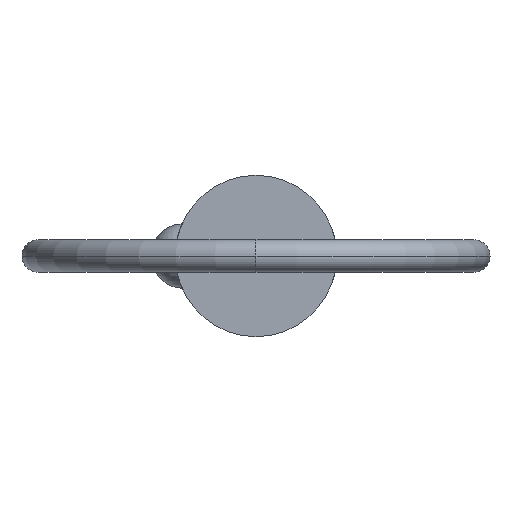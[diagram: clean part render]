
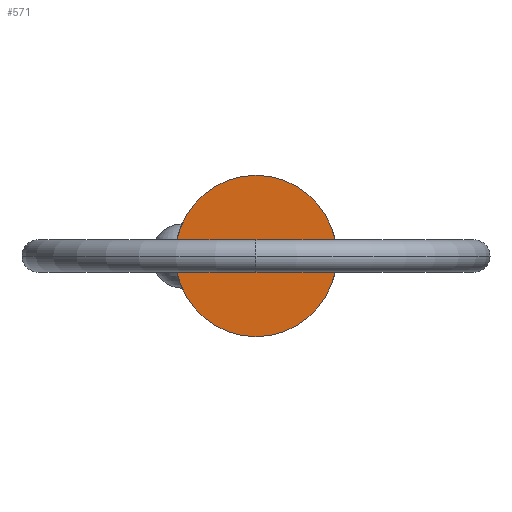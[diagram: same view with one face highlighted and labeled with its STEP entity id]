
A CAD part, left-side view. The second image highlights one B-rep face of the part: STEP entity #571.
In plain terms, the highlighted planar face has unit normal (-1, 0, 0).
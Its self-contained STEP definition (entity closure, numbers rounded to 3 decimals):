
#26 = EDGE_CURVE ( 'NONE', #763, #389, #402, .T. ) ;
#53 = ORIENTED_EDGE ( 'NONE', *, *, #26, .F. ) ;
#78 = PLANE ( 'NONE',  #257 ) ;
#122 = CARTESIAN_POINT ( 'NONE',  ( 0., 0., 0. ) ) ;
#163 = FACE_OUTER_BOUND ( 'NONE', #248, .T. ) ;
#170 = ORIENTED_EDGE ( 'NONE', *, *, #266, .F. ) ;
#248 = EDGE_LOOP ( 'NONE', ( #53, #170 ) ) ;
#257 = AXIS2_PLACEMENT_3D ( 'NONE', #745, #290, #811 ) ;
#266 = EDGE_CURVE ( 'NONE', #389, #763, #420, .T. ) ;
#290 = DIRECTION ( 'NONE',  ( -1., 0., 0. ) ) ;
#389 = VERTEX_POINT ( 'NONE', #442 ) ;
#402 = CIRCLE ( 'NONE', #453, 4.7 ) ;
#420 = CIRCLE ( 'NONE', #770, 4.7 ) ;
#442 = CARTESIAN_POINT ( 'NONE',  ( 0., 0., 4.7 ) ) ;
#453 = AXIS2_PLACEMENT_3D ( 'NONE', #122, #660, #464 ) ;
#464 = DIRECTION ( 'NONE',  ( 0., 0., -1. ) ) ;
#571 = ADVANCED_FACE ( 'NONE', ( #163 ), #78, .T. ) ;
#660 = DIRECTION ( 'NONE',  ( 1., 0., 0. ) ) ;
#710 = CARTESIAN_POINT ( 'NONE',  ( 0., 0., -4.7 ) ) ;
#732 = DIRECTION ( 'NONE',  ( 1., 0., 0. ) ) ;
#745 = CARTESIAN_POINT ( 'NONE',  ( 0., 0., 0. ) ) ;
#752 = DIRECTION ( 'NONE',  ( 0., 0., -1. ) ) ;
#763 = VERTEX_POINT ( 'NONE', #710 ) ;
#770 = AXIS2_PLACEMENT_3D ( 'NONE', #859, #732, #752 ) ;
#811 = DIRECTION ( 'NONE',  ( 0., 0., 1. ) ) ;
#859 = CARTESIAN_POINT ( 'NONE',  ( 0., 0., 0. ) ) ;
